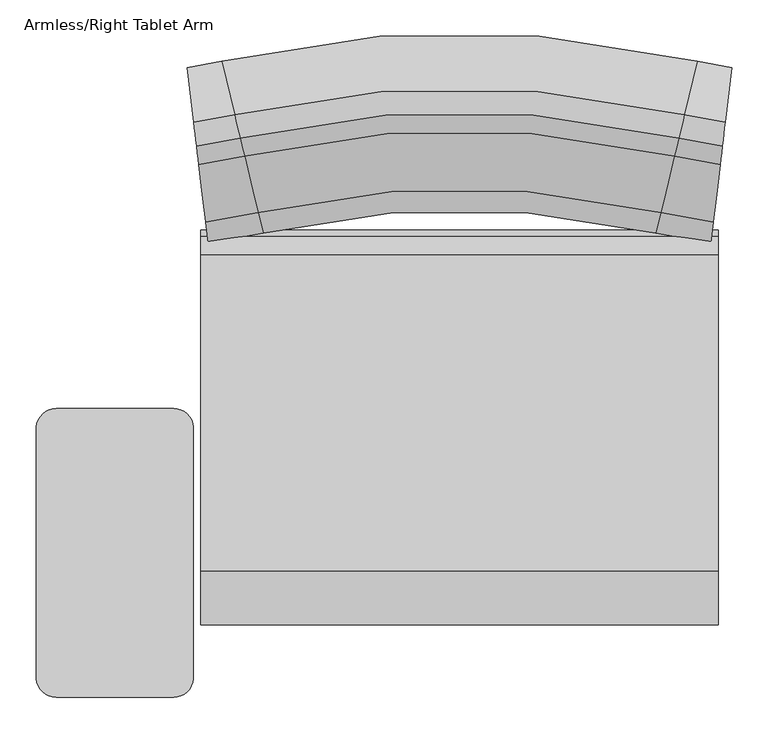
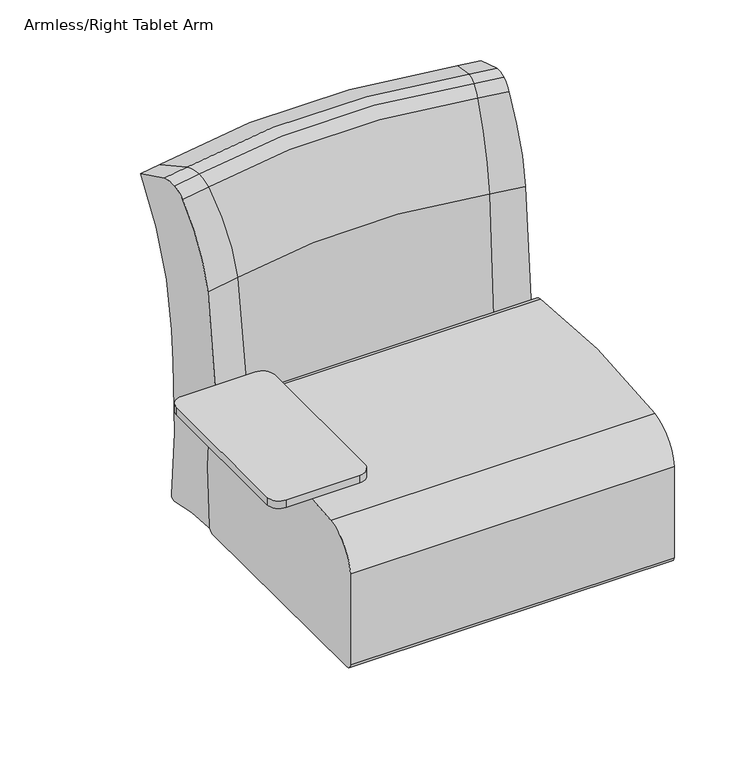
"""IFC4 building model written with IfcOpenShell, lengths in millimetres: furniture geometry, Steelcase Turnstone - Jenny - Seating - Lounge Chair : Armless/Right Tablet Arm."""

from ifc_helpers import new_model, si_unit, point, frame, frame_2d, origin, place, context, project, spatial, polyline, circle_curve, ellipse_curve, trimmed, segment, composite_curve, outline, extrude, source, transform, mapped, element, save
from ifc_brep_helpers import plane_surface, cylinder_surface, revolved_surface, advanced_brep


def armless_right_tablet_arm_03405101(model_context):
    return source(origin(), model_context, "Body", "SolidModel", [
        advanced_brep(
        [(-554.4670505, 297.2440659, 612.9965223), (-581.7206583, 271.9208046, 612.9965223), (-581.7206583, -74.3072853, 612.9965223), (-554.4670505, -99.6305466, 612.9965223), (-393.0859646, -99.6305466, 612.9965223), (-365.8323568, -74.3072853, 612.9965223), (-365.8267014, 271.8444534, 612.9965223), (-393.0859646, 297.2440659, 612.9965223), (-554.4670505, 297.2446472, 595.5042034), (-393.0859646, 297.2446472, 595.5042034), (-365.8323568, 271.9208046, 595.5042034), (-365.8323568, -74.3072853, 595.5042034), (-393.0859646, -99.6305466, 595.5042034), (-554.4670505, -99.6305466, 595.5042034), (-581.7206583, -74.3072853, 595.5042034), (-581.7263138, 271.8444534, 595.5042034)],
        [
            (0, 1, circle_curve(frame((-554.4670505, 269.9168846, 612.9965223), z_axis=(0.0, 0.0, 1.0), x_axis=(0.0, 1.0, 0.0)), 27.3271812)),
            (1, 2, circle_curve(frame((1772.6599394, 98.8070503, 612.9965223), z_axis=(0.0, 0.0, 1.0), x_axis=(0.0, 1.0, 0.0)), 2360.736447)),
            (2, 3, circle_curve(frame((-554.4670505, -72.3033653, 612.9965223), z_axis=(0.0, 0.0, 1.0), x_axis=(0.0, 1.0, 0.0)), 27.3271812)),
            (3, 4),
            (4, 5, circle_curve(frame((-393.0859646, -72.3033653, 612.9965223), z_axis=(0.0, 0.0, 1.0), x_axis=(0.0, 1.0, 0.0)), 27.3271812)),
            (5, 6, circle_curve(frame((-2720.2129546, 98.8070503, 612.9965223), z_axis=(0.0, 0.0, 1.0), x_axis=(0.0, 1.0, 0.0)), 2360.736447)),
            (6, 7, circle_curve(frame((-393.0859646, 269.9168846, 612.9965223), z_axis=(0.0, 0.0, 1.0), x_axis=(0.0, 1.0, 0.0)), 27.3271812)),
            (7, 0),
            (8, 9),
            (9, 10, circle_curve(frame((-393.0859646, 269.9168846, 595.5042034), z_axis=(0.0, 0.0, -1.0), x_axis=(0.0, 1.0, 0.0)), 27.3271812)),
            (10, 11, circle_curve(frame((-2720.2129546, 98.8070503, 595.5042034), z_axis=(0.0, 0.0, -1.0), x_axis=(0.0, 1.0, 0.0)), 2360.736447)),
            (11, 12, circle_curve(frame((-393.0859646, -72.3033653, 595.5042034), z_axis=(0.0, 0.0, -1.0), x_axis=(0.0, 1.0, 0.0)), 27.3271812)),
            (12, 13),
            (13, 14, circle_curve(frame((-554.4670505, -72.3033653, 595.5042034), z_axis=(0.0, 0.0, -1.0), x_axis=(0.0, 1.0, 0.0)), 27.3271812)),
            (14, 15, circle_curve(frame((1772.6599394, 98.8070503, 595.5042034), z_axis=(0.0, 0.0, -1.0), x_axis=(0.0, 1.0, 0.0)), 2360.736447)),
            (15, 8, circle_curve(frame((-554.4670505, 269.9168846, 595.5042034), z_axis=(0.0, 0.0, -1.0), x_axis=(0.0, 1.0, 0.0)), 27.3271812)),
            (0, 8),
            (15, 1),
            (14, 2),
            (13, 3),
            (12, 4),
            (11, 5),
            (10, 6),
            (9, 7),
        ],
        [
            plane_surface(frame((-554.4670505, 297.2440659, 612.9965223), z_axis=(0.0, 0.0, 1.0), x_axis=(-1.0, 0.0, 0.0))),
            plane_surface(frame((-554.4670505, 297.2440659, 595.5042034), z_axis=(0.0, 0.0, -1.0), x_axis=(1.0, 0.0, 0.0))),
            cylinder_surface(frame((-554.4670505, 269.9168846, 595.5042034), z_axis=(0.0, 0.0, 1.0), x_axis=(0.0, 1.0, 0.0)), 27.3271812),
            cylinder_surface(frame((1772.6599394, 98.8070503, 595.5042034), z_axis=(0.0, 0.0, 1.0), x_axis=(0.0, 1.0, 0.0)), 2360.736447),
            cylinder_surface(frame((-554.4670505, -72.3033653, 595.5042034), z_axis=(0.0, 0.0, 1.0), x_axis=(0.0, 1.0, 0.0)), 27.3271812),
            plane_surface(frame((-554.4670505, -99.6305466, 612.9965223), z_axis=(0.0, -1.0, 0.0), x_axis=(0.0, 0.0, -1.0))),
            cylinder_surface(frame((-393.0859646, -72.3033653, 595.5042034), z_axis=(0.0, 0.0, 1.0), x_axis=(0.0, 1.0, 0.0)), 27.3271812),
            cylinder_surface(frame((-2720.2129546, 98.8070503, 595.5042034), z_axis=(0.0, 0.0, 1.0), x_axis=(0.0, 1.0, 0.0)), 2360.736447),
            cylinder_surface(frame((-393.0859646, 269.9168846, 595.5042034), z_axis=(0.0, 0.0, 1.0), x_axis=(0.0, 1.0, 0.0)), 27.3271812),
            plane_surface(frame((-393.0859646, 297.2446472, 612.9965223), z_axis=(0.0, 1.0, 0.0), x_axis=(0.0, 0.0, -1.0))),
        ],
        [
            (0, [[1, 2, 3, 4, 5, 6, 7, 8]]),
            (1, [[9, 10, 11, 12, 13, 14, 15, 16]]),
            (2, [[-1, 17, -16, 18]]),
            (3, [[-2, -18, -15, 19]]),
            (4, [[-3, -19, -14, 20]]),
            (5, [[-4, -20, -13, 21]]),
            (6, [[-5, -21, -12, 22]]),
            (7, [[-6, -22, -11, 23]]),
            (8, [[-7, -23, -10, 24]]),
            (9, [[-8, -24, -9, -17]]),
        ],
    ),
        extrude(outline(polyline([(-374.3402751, 106.7260437), (-487.7744904, 106.7260437), (-487.7744904, 233.7264313), (-374.3402751, 233.7264313), (-374.3402751, 106.7260437)])), frame((0.0, 0.0, 592.311266), z_axis=(0.0, 0.0, 1.0), x_axis=(1.0, 0.0, 0.0)), (0.0, 0.0, 1.0), 3.1929374),
        extrude(outline(composite_curve([segment(trimmed(circle_curve(frame_2d((295.9448235, -1001.9734672)), 1409.8455938), [point((73.6948235, 390.2440215))], [point((509.3958902, 391.6201753))], False, "CARTESIAN"), True, "CONTINUOUS"), segment(trimmed(circle_curve(frame_2d((504.9855283, 362.825509)), 29.1304669), [point((509.3958902, 391.6201753))], [point((533.8942756, 366.4127691))], False, "CARTESIAN"), True, "CONTINUOUS"), segment(trimmed(circle_curve(frame_2d((-629.8512072, 222.0046519)), 1172.6709909), [point((533.8942756, 366.4127691))], [point((536.0042378, 95.7575362))], False, "CARTESIAN"), True, "CONTINUOUS"), segment(trimmed(circle_curve(frame_2d((523.173628, 97.1469259)), 12.9056171), [point((536.0042378, 95.7575362))], [point((523.4804674, 84.244957))], False, "CARTESIAN"), True, "CONTINUOUS"), segment(trimmed(circle_curve(frame_2d((320.8347088, 8605.0850806)), 8523.249481), [point((523.4804674, 84.244957))], [point((12.6556229, 87.4089088))], False, "CARTESIAN"), True, "CONTINUOUS"), segment(trimmed(circle_curve(frame_2d((13.132469, 100.5883266)), 13.1880413), [point((12.6556229, 87.4089088))], [point((0.0, 99.3789084))], False, "CARTESIAN"), True, "CONTINUOUS"), segment(trimmed(circle_curve(frame_2d((1151.5533041, 205.4297595)), 1156.4263034), [point((0.0, 99.3789084))], [point((0.0, 311.4806107))], False, "CARTESIAN"), True, "CONTINUOUS"), segment(trimmed(circle_curve(frame_2d((87.555619, 303.4172862)), 87.9261259), [point((0.0, 311.4806107))], [point((73.6948235, 390.2440215))], False, "CARTESIAN"), True, "CONTINUOUS")], self_intersect=False)), frame((-355.6, 0.0, 0.0), z_axis=(1.0, 0.0, 0.0), x_axis=(0.0, 1.0, 0.0)), (0.0, 0.0, 1.0), 711.2),
        advanced_brep(
        [(-365.286616, 691.4565759, 813.9027777), (-374.1581434, 766.5452606, 782.2939395), (-362.648411, 669.1267858, 474.5451921), (-361.9534589, 663.244705, 404.1661408), (-361.3770167, 658.3656933, 241.4197302), (-362.6146384, 668.8409343, 92.210125), (-361.3954165, 658.5214293, 82.3084573), (-349.0009614, 553.6146536, 81.9987921), (-346.7002803, 534.1416683, 97.0710008), (-349.0142051, 553.7267481, 627.8736036), (-358.4008193, 633.1751322, 797.7221008), (-361.3730638, 658.3322355, 814.4538477), (-326.9667617, 774.979302, 782.2939395), (-309.2801577, 701.4660474, 813.9027777), (-304.020535, 679.604757, 474.5451921), (-302.6350528, 673.8460877, 404.1661408), (-301.4858364, 669.0694421, 241.4197302), (-303.9532047, 679.3249029, 92.210125), (-301.5225189, 669.2219106, 82.3084573), (-276.8124763, 566.5161761, 81.9987921), (-272.2257535, 547.451752, 97.0710008), (-276.8388793, 566.6259188, 627.8736036), (-295.5523794, 644.4074023, 797.7221008), (-301.4779556, 669.0366863, 814.4538477), (326.9667617, 774.979302, 782.2939395), (309.2801577, 701.4660474, 813.9027777), (304.020535, 679.604757, 474.5451921), (302.6350528, 673.8460877, 404.1661408), (301.4858364, 669.0694421, 241.4197302), (303.9532047, 679.3249029, 92.210125), (301.5225189, 669.2219106, 82.3084573), (276.8124763, 566.5161761, 81.9987921), (272.2257535, 547.451752, 97.0710008), (276.8388793, 566.6259188, 627.8736036), (295.5523794, 644.4074023, 797.7221008), (301.4779556, 669.0366863, 814.4538477), (365.286616, 691.4565759, 813.9027777), (361.3730638, 658.3322355, 814.4538477), (358.4008193, 633.1751322, 797.7221008), (349.0142051, 553.7267481, 627.8736036), (346.7002803, 534.1416683, 97.0710008), (349.0009614, 553.6146536, 81.9987921), (361.3954165, 658.5214293, 82.3084573), (362.6146384, 668.8409343, 92.210125), (361.3770167, 658.3656933, 241.4197302), (361.9534589, 663.244705, 404.1661408), (362.648411, 669.1267858, 474.5451921), (374.1581434, 766.5452606, 782.2939395)],
        [
            (0, 1, circle_curve(frame((-341.1261096, 486.9618391, 215.0940543), z_axis=(-0.9930928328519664, -0.11733126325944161, 0.0), x_axis=(-0.11733126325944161, 0.9930928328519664, 0.0)), 633.2248531)),
            (1, 2, circle_curve(frame((-441.9489126, 1340.3269208, 428.618251), z_axis=(0.9930928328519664, 0.11733126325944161, 0.0), x_axis=(-0.11733126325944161, 0.9930928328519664, 0.0)), 677.4270991)),
            (2, 3, circle_curve(frame((-106.0716484, -1502.5411649, 623.1418041), z_axis=(-0.9930928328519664, -0.11733126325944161, 0.0), x_axis=(-0.11733126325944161, 0.9930928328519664, 0.0)), 2191.8152925)),
            (3, 4, circle_curve(frame((-498.0432857, 1815.1101831, 287.7047166), z_axis=(0.9930928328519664, 0.11733126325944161, 0.0), x_axis=(-0.11733126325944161, 0.9930928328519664, 0.0)), 1165.7091335)),
            (4, 5, circle_curve(frame((-645.5581159, 3063.6769889, 337.6638027), z_axis=(0.9930928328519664, 0.11733126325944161, 0.0), x_axis=(-0.11733126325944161, 0.9930928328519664, 0.0)), 2423.9521958)),
            (5, 6, circle_curve(frame((-361.5543466, 659.8666153, 91.290321), z_axis=(-0.9930928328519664, -0.11733126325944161, 0.0), x_axis=(-0.11733126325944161, 0.9930928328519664, 0.0)), 9.0834278)),
            (6, 7, circle_curve(frame((-355.3163018, 607.0677497, -261.2499371), z_axis=(0.9930928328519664, 0.11733126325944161, 0.0), x_axis=(-0.11733126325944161, 0.9930928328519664, 0.0)), 347.443243)),
            (7, 8, circle_curve(frame((-348.6908883, 550.9901919, 98.8517567), z_axis=(-0.9930928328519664, -0.11733126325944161, 0.0), x_axis=(-0.11733126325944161, 0.9930928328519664, 0.0)), 17.0589085)),
            (8, 9, circle_curve(frame((-566.1189152, 2391.3029031, 293.3582769), z_axis=(-0.9930928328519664, -0.11733126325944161, 0.0), x_axis=(-0.11733126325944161, 0.9930928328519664, 0.0)), 1880.3513194)),
            (9, 10, circle_curve(frame((-390.9633635, 908.7847898, 563.2382651), z_axis=(-0.9930928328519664, -0.11733126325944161, 0.0), x_axis=(-0.11733126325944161, 0.9930928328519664, 0.0)), 363.3230957)),
            (10, 11, circle_curve(frame((-363.2305214, 674.0537729, 762.9432742), z_axis=(-0.9930928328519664, -0.11733126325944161, 0.0), x_axis=(-0.11733126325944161, 0.9930928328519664, 0.0)), 53.8883667)),
            (11, 0, circle_curve(frame((-363.2305214, 674.0537729, 762.9432742), z_axis=(-0.9930928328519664, -0.11733126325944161, 0.0), x_axis=(-0.11733126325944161, 0.9930928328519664, 0.0)), 53.8883667)),
            (12, 1, circle_curve(frame((-421.6517332, 1168.5314176, 782.2939395), z_axis=(0.0, 0.0, -1.0), x_axis=(0.1173312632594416, -0.9930928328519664, 0.0)), 404.7820543)),
            (0, 13, circle_curve(frame((-421.6517332, 1168.5314176, 813.9027777), z_axis=(0.0, 0.0, 1.0), x_axis=(0.1173312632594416, -0.9930928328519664, 0.0)), 480.3929964)),
            (13, 12, circle_curve(frame((-261.1128813, 501.2617994, 215.0940543), z_axis=(-0.9722568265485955, -0.23391593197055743, 0.0), x_axis=(-0.23391593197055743, 0.9722568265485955, 0.0)), 633.2248531)),
            (14, 2, circle_curve(frame((-421.6517332, 1168.5314176, 474.5451921), z_axis=(0.0, 0.0, -1.0), x_axis=(0.1173312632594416, -0.9930928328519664, 0.0)), 502.8780948)),
            (12, 14, circle_curve(frame((-462.1169383, 1336.7224922, 428.618251), z_axis=(0.9722568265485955, 0.23391593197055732, 0.0), x_axis=(-0.23391593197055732, 0.9722568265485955, 0.0)), 677.4270991)),
            (15, 3, circle_curve(frame((-421.6517332, 1168.5314176, 404.1661408), z_axis=(0.0, 0.0, -1.0), x_axis=(0.1173312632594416, -0.9930928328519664, 0.0)), 508.8010867)),
            (14, 15, circle_curve(frame((207.500358, -1446.4995912, 623.1418041), z_axis=(-0.9722568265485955, -0.2339159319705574, 0.0), x_axis=(-0.2339159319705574, 0.9722568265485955, 0.0)), 2191.8152925)),
            (16, 4, circle_curve(frame((-421.6517332, 1168.5314176, 241.4197302), z_axis=(0.0, 0.0, -1.0), x_axis=(0.1173312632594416, -0.9930928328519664, 0.0)), 513.714033)),
            (15, 16, circle_curve(frame((-573.9487486, 1801.5443625, 287.7047166), z_axis=(0.9722568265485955, 0.23391593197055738, 0.0), x_axis=(-0.23391593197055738, 0.9722568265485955, 0.0)), 1165.7091335)),
            (17, 5, circle_curve(frame((-421.6517332, 1168.5314176, 92.210125), z_axis=(0.0, 0.0, -1.0), x_axis=(0.1173312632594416, -0.9930928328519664, 0.0)), 503.1659344)),
            (16, 17, circle_curve(frame((-868.0397524, 3023.9150817, 337.6638027), z_axis=(0.9722568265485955, 0.2339159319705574, 0.0), x_axis=(-0.2339159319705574, 0.9722568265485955, 0.0)), 2423.9521958)),
            (18, 6, circle_curve(frame((-421.6517332, 1168.5314176, 82.3084573), z_axis=(0.0, 0.0, -1.0), x_axis=(0.1173312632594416, -0.9930928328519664, 0.0)), 513.5572138)),
            (17, 18, circle_curve(frame((-301.8393678, 670.5388734, 91.290321), z_axis=(-0.9722568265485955, -0.23391593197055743, 0.0), x_axis=(-0.23391593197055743, 0.9722568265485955, 0.0)), 9.0834278)),
            (19, 7, circle_curve(frame((-421.6517332, 1168.5314176, 81.9987921), z_axis=(0.0, 0.0, -1.0), x_axis=(0.1173312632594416, -0.9930928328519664, 0.0)), 619.193638)),
            (18, 19, circle_curve(frame((-289.4029717, 618.8477768, -261.2499371), z_axis=(0.9722568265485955, 0.2339159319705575, 0.0), x_axis=(-0.2339159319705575, 0.9722568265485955, 0.0)), 347.443243)),
            (20, 8, circle_curve(frame((-421.6517332, 1168.5314176, 97.0710008), z_axis=(0.0, 0.0, -1.0), x_axis=(0.1173312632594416, -0.9930928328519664, 0.0)), 638.8020619)),
            (19, 20, circle_curve(frame((-276.194303, 563.9467781, 98.8517567), z_axis=(-0.9722568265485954, -0.23391593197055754, 0.0), x_axis=(-0.23391593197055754, 0.9722568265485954, 0.0)), 17.0589085)),
            (21, 9, circle_curve(frame((-421.6517332, 1168.5314176, 627.8736036), z_axis=(0.0, 0.0, -1.0), x_axis=(0.1173312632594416, -0.9930928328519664, 0.0)), 619.0807637)),
            (20, 21, circle_curve(frame((-709.6668332, 2365.6480262, 293.3582769), z_axis=(-0.9722568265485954, -0.23391593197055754, 0.0), x_axis=(-0.23391593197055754, 0.9722568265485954, 0.0)), 1880.3513194)),
            (22, 10, circle_curve(frame((-421.6517332, 1168.5314176, 797.7221008), z_axis=(0.0, 0.0, -1.0), x_axis=(0.1173312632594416, -0.9930928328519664, 0.0)), 539.0797997)),
            (21, 22, circle_curve(frame((-360.4702681, 914.2345144, 563.2382651), z_axis=(-0.9722568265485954, -0.23391593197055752, 0.0), x_axis=(-0.23391593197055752, 0.9722568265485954, 0.0)), 363.3230957)),
            (23, 11, circle_curve(frame((-421.6517332, 1168.5314176, 814.4538477), z_axis=(0.0, 0.0, -1.0), x_axis=(0.1173312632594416, -0.9930928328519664, 0.0)), 513.7477235)),
            (22, 23, circle_curve(frame((-305.1810516, 684.4283713, 762.9432742), z_axis=(-0.9722568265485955, -0.2339159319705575, 0.0), x_axis=(-0.2339159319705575, 0.9722568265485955, 0.0)), 53.8883667)),
            (23, 13, circle_curve(frame((-305.1810516, 684.4283713, 762.9432742), z_axis=(-0.9722568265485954, -0.23391593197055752, 0.0), x_axis=(-0.23391593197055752, 0.9722568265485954, 0.0)), 53.8883667)),
            (24, 12, circle_curve(frame((0.0, -584.0374329, 782.2939395), z_axis=(0.0, 0.0, 1.0), x_axis=(-0.23391593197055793, 0.9722568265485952, 0.0)), 1397.7960327)),
            (13, 25, circle_curve(frame((0.0, -584.0374329, 813.9027777), z_axis=(0.0, 0.0, -1.0), x_axis=(-0.23391593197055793, 0.9722568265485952, 0.0)), 1322.1850906)),
            (25, 24, circle_curve(frame((261.1128813, 501.2617994, 215.0940543), z_axis=(-0.9722568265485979, 0.23391593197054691, 0.0), x_axis=(0.23391593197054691, 0.9722568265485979, 0.0)), 633.2248531)),
            (26, 14, circle_curve(frame((0.0, -584.0374329, 474.5451921), z_axis=(0.0, 0.0, 1.0), x_axis=(-0.23391593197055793, 0.9722568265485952, 0.0)), 1299.6999922)),
            (24, 26, circle_curve(frame((462.1169383, 1336.7224922, 428.618251), z_axis=(0.9722568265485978, -0.23391593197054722, 0.0), x_axis=(0.23391593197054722, 0.9722568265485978, 0.0)), 677.4270991)),
            (27, 15, circle_curve(frame((0.0, -584.0374329, 404.1661408), z_axis=(0.0, 0.0, 1.0), x_axis=(-0.23391593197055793, 0.9722568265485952, 0.0)), 1293.7770003)),
            (26, 27, circle_curve(frame((-207.500358, -1446.4995912, 623.1418041), z_axis=(-0.9722568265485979, 0.23391593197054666, 0.0), x_axis=(0.23391593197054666, 0.9722568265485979, 0.0)), 2191.8152925)),
            (28, 16, circle_curve(frame((0.0, -584.0374329, 241.4197302), z_axis=(0.0, 0.0, 1.0), x_axis=(-0.23391593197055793, 0.9722568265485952, 0.0)), 1288.864054)),
            (27, 28, circle_curve(frame((573.9487486, 1801.5443625, 287.7047166), z_axis=(0.9722568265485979, -0.23391593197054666, 0.0), x_axis=(0.23391593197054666, 0.9722568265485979, 0.0)), 1165.7091335)),
            (29, 17, circle_curve(frame((0.0, -584.0374329, 92.210125), z_axis=(0.0, 0.0, 1.0), x_axis=(-0.23391593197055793, 0.9722568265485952, 0.0)), 1299.4121525)),
            (28, 29, circle_curve(frame((868.0397524, 3023.9150817, 337.6638027), z_axis=(0.9722568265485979, -0.23391593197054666, 0.0), x_axis=(0.23391593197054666, 0.9722568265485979, 0.0)), 2423.9521958)),
            (30, 18, circle_curve(frame((0.0, -584.0374329, 82.3084573), z_axis=(0.0, 0.0, 1.0), x_axis=(-0.23391593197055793, 0.9722568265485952, 0.0)), 1289.0208732)),
            (29, 30, circle_curve(frame((301.8393678, 670.5388734, 91.290321), z_axis=(-0.9722568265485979, 0.23391593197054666, 0.0), x_axis=(0.23391593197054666, 0.9722568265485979, 0.0)), 9.0834278)),
            (31, 19, circle_curve(frame((0.0, -584.0374329, 81.9987921), z_axis=(0.0, 0.0, 1.0), x_axis=(-0.23391593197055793, 0.9722568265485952, 0.0)), 1183.384449)),
            (30, 31, circle_curve(frame((289.4029717, 618.8477768, -261.2499371), z_axis=(0.9722568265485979, -0.23391593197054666, 0.0), x_axis=(0.23391593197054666, 0.9722568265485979, 0.0)), 347.443243)),
            (32, 20, circle_curve(frame((0.0, -584.0374329, 97.0710008), z_axis=(0.0, 0.0, 1.0), x_axis=(-0.23391593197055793, 0.9722568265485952, 0.0)), 1163.776025)),
            (31, 32, circle_curve(frame((276.194303, 563.9467781, 98.8517567), z_axis=(-0.9722568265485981, 0.23391593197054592, 0.0), x_axis=(0.23391593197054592, 0.9722568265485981, 0.0)), 17.0589085)),
            (33, 21, circle_curve(frame((0.0, -584.0374329, 627.8736036), z_axis=(0.0, 0.0, 1.0), x_axis=(-0.23391593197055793, 0.9722568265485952, 0.0)), 1183.4973232)),
            (32, 33, circle_curve(frame((709.6668332, 2365.6480262, 293.3582769), z_axis=(-0.9722568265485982, 0.23391593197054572, 0.0), x_axis=(0.23391593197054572, 0.9722568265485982, 0.0)), 1880.3513194)),
            (34, 22, circle_curve(frame((0.0, -584.0374329, 797.7221008), z_axis=(0.0, 0.0, 1.0), x_axis=(-0.23391593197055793, 0.9722568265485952, 0.0)), 1263.4982873)),
            (33, 34, circle_curve(frame((360.4702681, 914.2345144, 563.2382651), z_axis=(-0.9722568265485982, 0.2339159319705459, 0.0), x_axis=(0.2339159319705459, 0.9722568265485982, 0.0)), 363.3230957)),
            (35, 23, circle_curve(frame((0.0, -584.0374329, 814.4538477), z_axis=(0.0, 0.0, 1.0), x_axis=(-0.23391593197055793, 0.9722568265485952, 0.0)), 1288.8303635)),
            (34, 35, circle_curve(frame((305.1810516, 684.4283713, 762.9432742), z_axis=(-0.972256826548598, 0.23391593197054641, 0.0), x_axis=(0.23391593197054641, 0.972256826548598, 0.0)), 53.8883667)),
            (35, 25, circle_curve(frame((305.1810516, 684.4283713, 762.9432742), z_axis=(-0.972256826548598, 0.23391593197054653, 0.0), x_axis=(0.23391593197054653, 0.972256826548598, 0.0)), 53.8883667)),
            (36, 37, circle_curve(frame((363.2305214, 674.0537729, 762.9432742), z_axis=(0.9930928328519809, -0.11733126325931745, 0.0), x_axis=(0.11733126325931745, 0.9930928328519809, 0.0)), 53.8883667)),
            (37, 38, circle_curve(frame((363.2305214, 674.0537729, 762.9432742), z_axis=(0.9930928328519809, -0.11733126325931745, 0.0), x_axis=(0.11733126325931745, 0.9930928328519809, 0.0)), 53.8883667)),
            (38, 39, circle_curve(frame((390.9633635, 908.7847898, 563.2382651), z_axis=(0.9930928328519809, -0.11733126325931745, 0.0), x_axis=(0.11733126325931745, 0.9930928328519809, 0.0)), 363.3230957)),
            (39, 40, circle_curve(frame((566.1189152, 2391.3029031, 293.3582769), z_axis=(0.9930928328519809, -0.11733126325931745, 0.0), x_axis=(0.11733126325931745, 0.9930928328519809, 0.0)), 1880.3513194)),
            (40, 41, circle_curve(frame((348.6908883, 550.9901919, 98.8517567), z_axis=(0.9930928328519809, -0.11733126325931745, 0.0), x_axis=(0.11733126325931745, 0.9930928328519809, 0.0)), 17.0589085)),
            (41, 42, circle_curve(frame((355.3163018, 607.0677497, -261.2499371), z_axis=(-0.9930928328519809, 0.11733126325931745, 0.0), x_axis=(0.11733126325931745, 0.9930928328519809, 0.0)), 347.443243)),
            (42, 43, circle_curve(frame((361.5543466, 659.8666153, 91.290321), z_axis=(0.9930928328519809, -0.11733126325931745, 0.0), x_axis=(0.11733126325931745, 0.9930928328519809, 0.0)), 9.0834278)),
            (43, 44, circle_curve(frame((645.5581159, 3063.6769889, 337.6638027), z_axis=(-0.9930928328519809, 0.11733126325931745, 0.0), x_axis=(0.11733126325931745, 0.9930928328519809, 0.0)), 2423.9521958)),
            (44, 45, circle_curve(frame((498.0432857, 1815.1101831, 287.7047166), z_axis=(-0.9930928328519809, 0.11733126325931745, 0.0), x_axis=(0.11733126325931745, 0.9930928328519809, 0.0)), 1165.7091335)),
            (45, 46, circle_curve(frame((106.0716484, -1502.5411649, 623.1418041), z_axis=(0.9930928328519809, -0.11733126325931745, 0.0), x_axis=(0.11733126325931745, 0.9930928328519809, 0.0)), 2191.8152925)),
            (46, 47, circle_curve(frame((441.9489126, 1340.3269208, 428.618251), z_axis=(-0.9930928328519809, 0.11733126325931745, 0.0), x_axis=(0.11733126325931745, 0.9930928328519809, 0.0)), 677.4270991)),
            (47, 36, circle_curve(frame((341.1261096, 486.9618391, 215.0940543), z_axis=(0.9930928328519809, -0.11733126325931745, 0.0), x_axis=(0.11733126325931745, 0.9930928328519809, 0.0)), 633.2248531)),
            (47, 24, circle_curve(frame((421.6517332, 1168.5314176, 782.2939395), z_axis=(0.0, 0.0, -1.0), x_axis=(-0.2339159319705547, -0.972256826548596, 0.0)), 404.7820543)),
            (25, 36, circle_curve(frame((421.6517332, 1168.5314176, 813.9027777), z_axis=(0.0, 0.0, 1.0), x_axis=(-0.2339159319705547, -0.972256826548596, 0.0)), 480.3929964)),
            (46, 26, circle_curve(frame((421.6517332, 1168.5314176, 474.5451921), z_axis=(0.0, 0.0, -1.0), x_axis=(-0.2339159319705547, -0.972256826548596, 0.0)), 502.8780948)),
            (45, 27, circle_curve(frame((421.6517332, 1168.5314176, 404.1661408), z_axis=(0.0, 0.0, -1.0), x_axis=(-0.2339159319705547, -0.972256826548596, 0.0)), 508.8010867)),
            (44, 28, circle_curve(frame((421.6517332, 1168.5314176, 241.4197302), z_axis=(0.0, 0.0, -1.0), x_axis=(-0.2339159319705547, -0.972256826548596, 0.0)), 513.714033)),
            (43, 29, circle_curve(frame((421.6517332, 1168.5314176, 92.210125), z_axis=(0.0, 0.0, -1.0), x_axis=(-0.2339159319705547, -0.972256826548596, 0.0)), 503.1659344)),
            (42, 30, circle_curve(frame((421.6517332, 1168.5314176, 82.3084573), z_axis=(0.0, 0.0, -1.0), x_axis=(-0.2339159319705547, -0.972256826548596, 0.0)), 513.5572138)),
            (41, 31, circle_curve(frame((421.6517332, 1168.5314176, 81.9987921), z_axis=(0.0, 0.0, -1.0), x_axis=(-0.2339159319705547, -0.972256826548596, 0.0)), 619.193638)),
            (40, 32, circle_curve(frame((421.6517332, 1168.5314176, 97.0710008), z_axis=(0.0, 0.0, -1.0), x_axis=(-0.2339159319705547, -0.972256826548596, 0.0)), 638.8020619)),
            (39, 33, circle_curve(frame((421.6517332, 1168.5314176, 627.8736036), z_axis=(0.0, 0.0, -1.0), x_axis=(-0.2339159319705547, -0.972256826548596, 0.0)), 619.0807637)),
            (38, 34, circle_curve(frame((421.6517332, 1168.5314176, 797.7221008), z_axis=(0.0, 0.0, -1.0), x_axis=(-0.2339159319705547, -0.972256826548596, 0.0)), 539.0797997)),
            (37, 35, circle_curve(frame((421.6517332, 1168.5314176, 814.4538477), z_axis=(0.0, 0.0, -1.0), x_axis=(-0.2339159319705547, -0.972256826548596, 0.0)), 513.7477235)),
        ],
        [
            plane_surface(frame((-355.6, 609.4689735, 0.0), z_axis=(-0.9930928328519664, -0.11733126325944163, 0.0), x_axis=(0.0, 0.0, 1.0))),
            revolved_surface(trimmed(ellipse_curve(frame((-341.1261096, 486.9618391, 215.0940543), z_axis=(-0.9930928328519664, -0.11733126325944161, 0.0), x_axis=(-0.11733126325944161, 0.9930928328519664, 0.0)), 633.2248531, 633.2248531), [point((-365.286616, 691.4565759, 813.9027777))], [point((-374.1581434, 766.5452606, 782.2939395))], True, "CARTESIAN"), (-421.6517332, 1168.5314176, 0.0), (0.0, 0.0, 1.0)),
            revolved_surface(trimmed(ellipse_curve(frame((-441.9489126, 1340.3269208, 428.618251), z_axis=(0.9930928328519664, 0.11733126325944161, 0.0), x_axis=(-0.11733126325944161, 0.9930928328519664, 0.0)), 677.4270991, 677.4270991), [point((-374.1581434, 766.5452606, 782.2939395))], [point((-362.648411, 669.1267858, 474.5451921))], True, "CARTESIAN"), (-421.6517332, 1168.5314176, 0.0), (0.0, 0.0, 1.0)),
            revolved_surface(trimmed(ellipse_curve(frame((-106.0716484, -1502.5411649, 623.1418041), z_axis=(-0.9930928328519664, -0.11733126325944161, 0.0), x_axis=(-0.11733126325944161, 0.9930928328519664, 0.0)), 2191.8152925, 2191.8152925), [point((-362.648411, 669.1267858, 474.5451921))], [point((-361.9534589, 663.244705, 404.1661408))], True, "CARTESIAN"), (-421.6517332, 1168.5314176, 0.0), (0.0, 0.0, 1.0)),
            revolved_surface(trimmed(ellipse_curve(frame((-498.0432857, 1815.1101831, 287.7047166), z_axis=(0.9930928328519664, 0.11733126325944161, 0.0), x_axis=(-0.11733126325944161, 0.9930928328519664, 0.0)), 1165.7091335, 1165.7091335), [point((-361.9534589, 663.244705, 404.1661408))], [point((-361.3770167, 658.3656933, 241.4197302))], True, "CARTESIAN"), (-421.6517332, 1168.5314176, 0.0), (0.0, 0.0, 1.0)),
            revolved_surface(trimmed(ellipse_curve(frame((-645.5581159, 3063.6769889, 337.6638027), z_axis=(0.9930928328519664, 0.11733126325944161, 0.0), x_axis=(-0.11733126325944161, 0.9930928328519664, 0.0)), 2423.9521958, 2423.9521958), [point((-361.3770167, 658.3656933, 241.4197302))], [point((-362.6146384, 668.8409343, 92.210125))], True, "CARTESIAN"), (-421.6517332, 1168.5314176, 0.0), (0.0, 0.0, 1.0)),
            revolved_surface(trimmed(ellipse_curve(frame((-361.5543466, 659.8666153, 91.290321), z_axis=(-0.9930928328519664, -0.11733126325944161, 0.0), x_axis=(-0.11733126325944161, 0.9930928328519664, 0.0)), 9.0834278, 9.0834278), [point((-362.6146384, 668.8409343, 92.210125))], [point((-361.3954165, 658.5214293, 82.3084573))], True, "CARTESIAN"), (-421.6517332, 1168.5314176, 0.0), (0.0, 0.0, 1.0)),
            revolved_surface(trimmed(ellipse_curve(frame((-355.3163018, 607.0677497, -261.2499371), z_axis=(0.9930928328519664, 0.11733126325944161, 0.0), x_axis=(-0.11733126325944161, 0.9930928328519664, 0.0)), 347.443243, 347.443243), [point((-361.3954165, 658.5214293, 82.3084573))], [point((-349.0009614, 553.6146536, 81.9987921))], True, "CARTESIAN"), (-421.6517332, 1168.5314176, 0.0), (0.0, 0.0, 1.0)),
            revolved_surface(trimmed(ellipse_curve(frame((-348.6908883, 550.9901919, 98.8517567), z_axis=(-0.9930928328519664, -0.11733126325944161, 0.0), x_axis=(-0.11733126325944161, 0.9930928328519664, 0.0)), 17.0589085, 17.0589085), [point((-349.0009614, 553.6146536, 81.9987921))], [point((-346.7002803, 534.1416683, 97.0710008))], True, "CARTESIAN"), (-421.6517332, 1168.5314176, 0.0), (0.0, 0.0, 1.0)),
            revolved_surface(trimmed(ellipse_curve(frame((-566.1189152, 2391.3029031, 293.3582769), z_axis=(-0.9930928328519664, -0.11733126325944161, 0.0), x_axis=(-0.11733126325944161, 0.9930928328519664, 0.0)), 1880.3513194, 1880.3513194), [point((-346.7002803, 534.1416683, 97.0710008))], [point((-349.0142051, 553.7267481, 627.8736036))], True, "CARTESIAN"), (-421.6517332, 1168.5314176, 0.0), (0.0, 0.0, 1.0)),
            revolved_surface(trimmed(ellipse_curve(frame((-390.9633635, 908.7847898, 563.2382651), z_axis=(-0.9930928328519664, -0.11733126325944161, 0.0), x_axis=(-0.11733126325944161, 0.9930928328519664, 0.0)), 363.3230957, 363.3230957), [point((-349.0142051, 553.7267481, 627.8736036))], [point((-358.4008193, 633.1751322, 797.7221008))], True, "CARTESIAN"), (-421.6517332, 1168.5314176, 0.0), (0.0, 0.0, 1.0)),
            revolved_surface(trimmed(ellipse_curve(frame((-363.2305214, 674.0537729, 762.9432742), z_axis=(-0.9930928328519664, -0.11733126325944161, 0.0), x_axis=(-0.11733126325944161, 0.9930928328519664, 0.0)), 53.8883667, 53.8883667), [point((-358.4008193, 633.1751322, 797.7221008))], [point((-361.3730638, 658.3322355, 814.4538477))], True, "CARTESIAN"), (-421.6517332, 1168.5314176, 0.0), (0.0, 0.0, 1.0)),
            revolved_surface(trimmed(ellipse_curve(frame((-363.2305214, 674.0537729, 762.9432742), z_axis=(-0.9930928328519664, -0.11733126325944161, 0.0), x_axis=(-0.11733126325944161, 0.9930928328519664, 0.0)), 53.8883667, 53.8883667), [point((-361.3730638, 658.3322355, 814.4538477))], [point((-365.286616, 691.4565759, 813.9027777))], True, "CARTESIAN"), (-421.6517332, 1168.5314176, 0.0), (0.0, 0.0, 1.0)),
            revolved_surface(trimmed(ellipse_curve(frame((-261.1128813, 501.2617994, 215.0940543), z_axis=(-0.9722568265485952, -0.23391593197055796, 0.0), x_axis=(-0.23391593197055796, 0.9722568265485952, 0.0)), 633.2248531, 633.2248531), [point((-309.2801577, 701.4660474, 813.9027777))], [point((-326.9667617, 774.979302, 782.2939395))], True, "CARTESIAN"), (0.0, -584.0374329, 0.0), (0.0, 0.0, -1.0)),
            revolved_surface(trimmed(ellipse_curve(frame((-462.1169383, 1336.7224922, 428.618251), z_axis=(0.9722568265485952, 0.23391593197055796, 0.0), x_axis=(-0.23391593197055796, 0.9722568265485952, 0.0)), 677.4270991, 677.4270991), [point((-326.9667617, 774.979302, 782.2939395))], [point((-304.020535, 679.604757, 474.5451921))], True, "CARTESIAN"), (0.0, -584.0374329, 0.0), (0.0, 0.0, -1.0)),
            revolved_surface(trimmed(ellipse_curve(frame((207.500358, -1446.4995912, 623.1418041), z_axis=(-0.9722568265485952, -0.23391593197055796, 0.0), x_axis=(-0.23391593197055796, 0.9722568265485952, 0.0)), 2191.8152925, 2191.8152925), [point((-304.020535, 679.604757, 474.5451921))], [point((-302.6350528, 673.8460877, 404.1661408))], True, "CARTESIAN"), (0.0, -584.0374329, 0.0), (0.0, 0.0, -1.0)),
            revolved_surface(trimmed(ellipse_curve(frame((-573.9487486, 1801.5443625, 287.7047166), z_axis=(0.9722568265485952, 0.23391593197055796, 0.0), x_axis=(-0.23391593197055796, 0.9722568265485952, 0.0)), 1165.7091335, 1165.7091335), [point((-302.6350528, 673.8460877, 404.1661408))], [point((-301.4858364, 669.0694421, 241.4197302))], True, "CARTESIAN"), (0.0, -584.0374329, 0.0), (0.0, 0.0, -1.0)),
            revolved_surface(trimmed(ellipse_curve(frame((-868.0397524, 3023.9150817, 337.6638027), z_axis=(0.9722568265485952, 0.23391593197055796, 0.0), x_axis=(-0.23391593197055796, 0.9722568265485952, 0.0)), 2423.9521958, 2423.9521958), [point((-301.4858364, 669.0694421, 241.4197302))], [point((-303.9532047, 679.3249029, 92.210125))], True, "CARTESIAN"), (0.0, -584.0374329, 0.0), (0.0, 0.0, -1.0)),
            revolved_surface(trimmed(ellipse_curve(frame((-301.8393678, 670.5388734, 91.290321), z_axis=(-0.9722568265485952, -0.23391593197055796, 0.0), x_axis=(-0.23391593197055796, 0.9722568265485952, 0.0)), 9.0834278, 9.0834278), [point((-303.9532047, 679.3249029, 92.210125))], [point((-301.5225189, 669.2219106, 82.3084573))], True, "CARTESIAN"), (0.0, -584.0374329, 0.0), (0.0, 0.0, -1.0)),
            revolved_surface(trimmed(ellipse_curve(frame((-289.4029717, 618.8477768, -261.2499371), z_axis=(0.9722568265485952, 0.23391593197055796, 0.0), x_axis=(-0.23391593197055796, 0.9722568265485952, 0.0)), 347.443243, 347.443243), [point((-301.5225189, 669.2219106, 82.3084573))], [point((-276.8124763, 566.5161761, 81.9987921))], True, "CARTESIAN"), (0.0, -584.0374329, 0.0), (0.0, 0.0, -1.0)),
            revolved_surface(trimmed(ellipse_curve(frame((-276.194303, 563.9467781, 98.8517567), z_axis=(-0.9722568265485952, -0.23391593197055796, 0.0), x_axis=(-0.23391593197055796, 0.9722568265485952, 0.0)), 17.0589085, 17.0589085), [point((-276.8124763, 566.5161761, 81.9987921))], [point((-272.2257535, 547.451752, 97.0710008))], True, "CARTESIAN"), (0.0, -584.0374329, 0.0), (0.0, 0.0, -1.0)),
            revolved_surface(trimmed(ellipse_curve(frame((-709.6668332, 2365.6480262, 293.3582769), z_axis=(-0.9722568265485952, -0.23391593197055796, 0.0), x_axis=(-0.23391593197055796, 0.9722568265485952, 0.0)), 1880.3513194, 1880.3513194), [point((-272.2257535, 547.451752, 97.0710008))], [point((-276.8388793, 566.6259188, 627.8736036))], True, "CARTESIAN"), (0.0, -584.0374329, 0.0), (0.0, 0.0, -1.0)),
            revolved_surface(trimmed(ellipse_curve(frame((-360.4702681, 914.2345144, 563.2382651), z_axis=(-0.9722568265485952, -0.23391593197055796, 0.0), x_axis=(-0.23391593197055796, 0.9722568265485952, 0.0)), 363.3230957, 363.3230957), [point((-276.8388793, 566.6259188, 627.8736036))], [point((-295.5523794, 644.4074023, 797.7221008))], True, "CARTESIAN"), (0.0, -584.0374329, 0.0), (0.0, 0.0, -1.0)),
            revolved_surface(trimmed(ellipse_curve(frame((-305.1810516, 684.4283713, 762.9432742), z_axis=(-0.9722568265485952, -0.23391593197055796, 0.0), x_axis=(-0.23391593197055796, 0.9722568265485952, 0.0)), 53.8883667, 53.8883667), [point((-295.5523794, 644.4074023, 797.7221008))], [point((-301.4779556, 669.0366863, 814.4538477))], True, "CARTESIAN"), (0.0, -584.0374329, 0.0), (0.0, 0.0, -1.0)),
            revolved_surface(trimmed(ellipse_curve(frame((-305.1810516, 684.4283713, 762.9432742), z_axis=(-0.9722568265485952, -0.23391593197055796, 0.0), x_axis=(-0.23391593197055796, 0.9722568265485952, 0.0)), 53.8883667, 53.8883667), [point((-301.4779556, 669.0366863, 814.4538477))], [point((-309.2801577, 701.4660474, 813.9027777))], True, "CARTESIAN"), (0.0, -584.0374329, 0.0), (0.0, 0.0, -1.0)),
            plane_surface(frame((355.6, 609.4689735, 0.0), z_axis=(0.993092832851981, -0.11733126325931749, 0.0), x_axis=(0.0, 0.0, 1.0))),
            revolved_surface(trimmed(ellipse_curve(frame((261.1128813, 501.2617994, 215.0940543), z_axis=(-0.972256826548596, 0.23391593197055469, 0.0), x_axis=(0.23391593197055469, 0.972256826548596, 0.0)), 633.2248531, 633.2248531), [point((309.2801577, 701.4660474, 813.9027777))], [point((326.9667617, 774.979302, 782.2939395))], True, "CARTESIAN"), (421.6517332, 1168.5314176, 0.0), (0.0, 0.0, 1.0)),
            revolved_surface(trimmed(ellipse_curve(frame((462.1169383, 1336.7224922, 428.618251), z_axis=(0.972256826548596, -0.23391593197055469, 0.0), x_axis=(0.23391593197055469, 0.972256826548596, 0.0)), 677.4270991, 677.4270991), [point((326.9667617, 774.979302, 782.2939395))], [point((304.020535, 679.604757, 474.5451921))], True, "CARTESIAN"), (421.6517332, 1168.5314176, 0.0), (0.0, 0.0, 1.0)),
            revolved_surface(trimmed(ellipse_curve(frame((-207.500358, -1446.4995912, 623.1418041), z_axis=(-0.972256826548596, 0.23391593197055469, 0.0), x_axis=(0.23391593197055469, 0.972256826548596, 0.0)), 2191.8152925, 2191.8152925), [point((304.020535, 679.604757, 474.5451921))], [point((302.6350528, 673.8460877, 404.1661408))], True, "CARTESIAN"), (421.6517332, 1168.5314176, 0.0), (0.0, 0.0, 1.0)),
            revolved_surface(trimmed(ellipse_curve(frame((573.9487486, 1801.5443625, 287.7047166), z_axis=(0.972256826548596, -0.23391593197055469, 0.0), x_axis=(0.23391593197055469, 0.972256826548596, 0.0)), 1165.7091335, 1165.7091335), [point((302.6350528, 673.8460877, 404.1661408))], [point((301.4858364, 669.0694421, 241.4197302))], True, "CARTESIAN"), (421.6517332, 1168.5314176, 0.0), (0.0, 0.0, 1.0)),
            revolved_surface(trimmed(ellipse_curve(frame((868.0397524, 3023.9150817, 337.6638027), z_axis=(0.972256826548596, -0.23391593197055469, 0.0), x_axis=(0.23391593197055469, 0.972256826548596, 0.0)), 2423.9521958, 2423.9521958), [point((301.4858364, 669.0694421, 241.4197302))], [point((303.9532047, 679.3249029, 92.210125))], True, "CARTESIAN"), (421.6517332, 1168.5314176, 0.0), (0.0, 0.0, 1.0)),
            revolved_surface(trimmed(ellipse_curve(frame((301.8393678, 670.5388734, 91.290321), z_axis=(-0.972256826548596, 0.23391593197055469, 0.0), x_axis=(0.23391593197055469, 0.972256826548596, 0.0)), 9.0834278, 9.0834278), [point((303.9532047, 679.3249029, 92.210125))], [point((301.5225189, 669.2219106, 82.3084573))], True, "CARTESIAN"), (421.6517332, 1168.5314176, 0.0), (0.0, 0.0, 1.0)),
            revolved_surface(trimmed(ellipse_curve(frame((289.4029717, 618.8477768, -261.2499371), z_axis=(0.972256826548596, -0.23391593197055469, 0.0), x_axis=(0.23391593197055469, 0.972256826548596, 0.0)), 347.443243, 347.443243), [point((301.5225189, 669.2219106, 82.3084573))], [point((276.8124763, 566.5161761, 81.9987921))], True, "CARTESIAN"), (421.6517332, 1168.5314176, 0.0), (0.0, 0.0, 1.0)),
            revolved_surface(trimmed(ellipse_curve(frame((276.194303, 563.9467781, 98.8517567), z_axis=(-0.972256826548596, 0.23391593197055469, 0.0), x_axis=(0.23391593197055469, 0.972256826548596, 0.0)), 17.0589085, 17.0589085), [point((276.8124763, 566.5161761, 81.9987921))], [point((272.2257535, 547.451752, 97.0710008))], True, "CARTESIAN"), (421.6517332, 1168.5314176, 0.0), (0.0, 0.0, 1.0)),
            revolved_surface(trimmed(ellipse_curve(frame((709.6668332, 2365.6480262, 293.3582769), z_axis=(-0.972256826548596, 0.23391593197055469, 0.0), x_axis=(0.23391593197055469, 0.972256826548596, 0.0)), 1880.3513194, 1880.3513194), [point((272.2257535, 547.451752, 97.0710008))], [point((276.8388793, 566.6259188, 627.8736036))], True, "CARTESIAN"), (421.6517332, 1168.5314176, 0.0), (0.0, 0.0, 1.0)),
            revolved_surface(trimmed(ellipse_curve(frame((360.4702681, 914.2345144, 563.2382651), z_axis=(-0.972256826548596, 0.23391593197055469, 0.0), x_axis=(0.23391593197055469, 0.972256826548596, 0.0)), 363.3230957, 363.3230957), [point((276.8388793, 566.6259188, 627.8736036))], [point((295.5523794, 644.4074023, 797.7221008))], True, "CARTESIAN"), (421.6517332, 1168.5314176, 0.0), (0.0, 0.0, 1.0)),
            revolved_surface(trimmed(ellipse_curve(frame((305.1810516, 684.4283713, 762.9432742), z_axis=(-0.972256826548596, 0.23391593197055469, 0.0), x_axis=(0.23391593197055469, 0.972256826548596, 0.0)), 53.8883667, 53.8883667), [point((295.5523794, 644.4074023, 797.7221008))], [point((301.4779556, 669.0366863, 814.4538477))], True, "CARTESIAN"), (421.6517332, 1168.5314176, 0.0), (0.0, 0.0, 1.0)),
            revolved_surface(trimmed(ellipse_curve(frame((305.1810516, 684.4283713, 762.9432742), z_axis=(-0.972256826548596, 0.23391593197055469, 0.0), x_axis=(0.23391593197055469, 0.972256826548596, 0.0)), 53.8883667, 53.8883667), [point((301.4779556, 669.0366863, 814.4538477))], [point((309.2801577, 701.4660474, 813.9027777))], True, "CARTESIAN"), (421.6517332, 1168.5314176, 0.0), (0.0, 0.0, 1.0)),
        ],
        [
            (0, [[1, 2, 3, 4, 5, 6, 7, 8, 9, 10, 11, 12]]),
            (1, [[13, -1, 14, 15]]),
            (2, [[16, -2, -13, 17]]),
            (3, [[18, -3, -16, 19]]),
            (4, [[20, -4, -18, 21]]),
            (5, [[22, -5, -20, 23]]),
            (6, [[24, -6, -22, 25]]),
            (7, [[26, -7, -24, 27]]),
            (8, [[28, -8, -26, 29]]),
            (9, [[30, -9, -28, 31]]),
            (10, [[32, -10, -30, 33]]),
            (11, [[34, -11, -32, 35]]),
            (12, [[-14, -12, -34, 36]]),
            (13, [[37, -15, 38, 39]]),
            (14, [[40, -17, -37, 41]]),
            (15, [[42, -19, -40, 43]]),
            (16, [[44, -21, -42, 45]]),
            (17, [[46, -23, -44, 47]]),
            (18, [[48, -25, -46, 49]]),
            (19, [[50, -27, -48, 51]]),
            (20, [[52, -29, -50, 53]]),
            (21, [[54, -31, -52, 55]]),
            (22, [[56, -33, -54, 57]]),
            (23, [[58, -35, -56, 59]]),
            (24, [[-38, -36, -58, 60]]),
            (25, [[61, 62, 63, 64, 65, 66, 67, 68, 69, 70, 71, 72]]),
            (26, [[73, -39, 74, -72]]),
            (27, [[75, -41, -73, -71]]),
            (28, [[76, -43, -75, -70]]),
            (29, [[77, -45, -76, -69]]),
            (30, [[78, -47, -77, -68]]),
            (31, [[79, -49, -78, -67]]),
            (32, [[80, -51, -79, -66]]),
            (33, [[81, -53, -80, -65]]),
            (34, [[82, -55, -81, -64]]),
            (35, [[83, -57, -82, -63]]),
            (36, [[84, -59, -83, -62]]),
            (37, [[-74, -60, -84, -61]]),
        ],
    ),
    ])


if __name__ == "__main__":
    model = new_model("IFC4")
    model_context = context("Model", 3, world=origin())
    ifc_project = project(units=[si_unit("LENGTHUNIT", "METRE", prefix="MILLI")], contexts=[model_context])
    site = spatial("IfcSite", under=ifc_project)
    building = spatial("IfcBuilding", under=site)
    placement = place(None, origin())
    armless_right_tablet_arm_shape = armless_right_tablet_arm_03405101(model_context)
    element("IfcFurniture", 1, ObjectType="Steelcase Turnstone - Jenny - Seating - Lounge Chair : Armless/Right Tablet Arm", at=placement, inside=building, context=model_context, shape_type="MappedRepresentation", body=[
        mapped(armless_right_tablet_arm_shape, transform((0.0, 0.0, 0.0), x_axis=(1.0, 0.0, 0.0), y_axis=(0.0, 1.0, 0.0), z_axis=(0.0, 0.0, 1.0))),
    ])
    save(model, "model.ifc")
